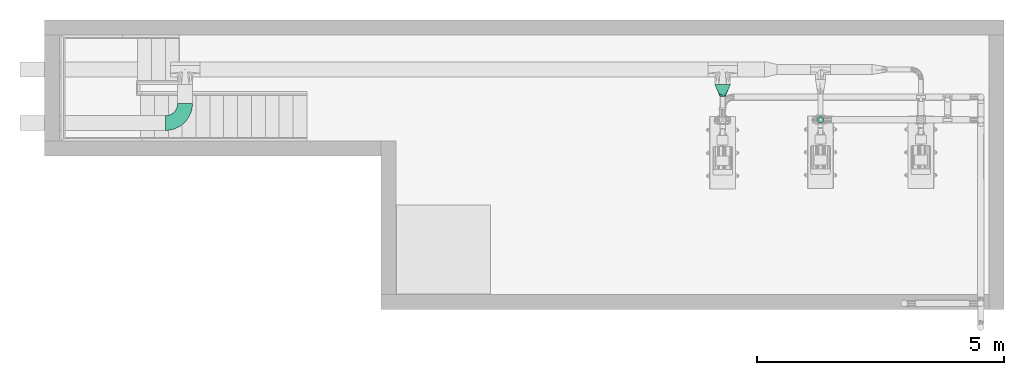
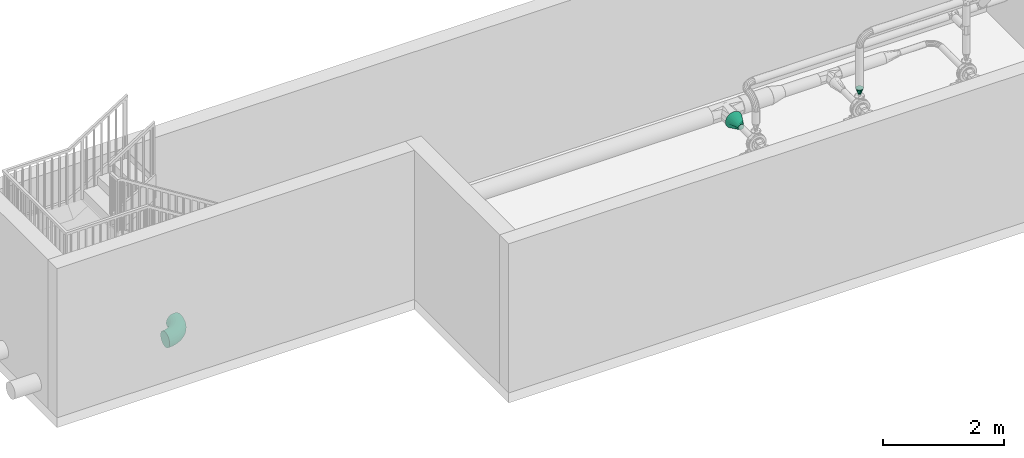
# One storey, part 8 of 12: 3 flow fittings.
"""IFC2X3 building model written with IfcOpenShell, lengths in millimetres."""

from ifc_helpers import new_model, entity, si_unit, converted_unit, direction, frame, origin, place, context, subcontext, project, spatial, faceted_brep, source, transform, mapped, material, type_object, type_shapes, element, save


model = new_model("IFC2X3")

# Units and contexts
model_context = context("Model", 3, precision=0.01, world=origin(), true_north=direction((6.123031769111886e-17, 1.0)))
body_context = subcontext(model_context, "Body", "Model", "MODEL_VIEW")
ifc_project = project(units=[si_unit("LENGTHUNIT", "METRE", prefix="MILLI"), converted_unit("PLANEANGLEUNIT", "DEGREE", entity("IfcPlaneAngleMeasure", 0.017453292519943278), si_unit("PLANEANGLEUNIT", "RADIAN"), dimensions=[0, 0, 0, 0, 0, 0, 0]), si_unit("AREAUNIT", "SQUARE_METRE")], contexts=[model_context])

# Site, building, storey
site_placement = place(None, frame((7776.576483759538, 118.3519876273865, 0.0)))
site = spatial("IfcSite", under=ifc_project, at=site_placement, Name="Default", CompositionType="ELEMENT")
building_placement = place(site_placement, origin())
building = spatial("IfcBuilding", under=site, at=building_placement, Name="Bygning (endres i Project Information)", CompositionType="ELEMENT")
storey_placement = place(building_placement, frame((0.0, 0.0, 11000.0)))
storey = spatial("IfcBuildingStorey", under=building, at=storey_placement, Name="Plan U2 - Arbeid", CompositionType="ELEMENT", Elevation=10999.999999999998)

# Flow fittings
ifc_material = material(Name="SS 2343 Rustfritt stål, prosessrør, generisk")
pipe_fitting_type_1 = type_object("IfcPipeFittingType", Name="VA_prosess_rustfritt_bend_D+100:VA_prosess_rustfritt_bend_D+100", PredefinedType="NOTDEFINED", material=ifc_material)
shared_shape_1 = source(origin(), body_context, "Body", "Brep", [
    faceted_brep([(-304.4930882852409, -141.64427708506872, 0.0), (-305.54818317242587, -135.66053189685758, 42.25988352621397), (-399.9995126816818, -143.92394604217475, 42.25988352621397), (-399.9995126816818, -150.0, 0.0), (-308.627990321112, -118.19406378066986, 81.09612261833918), (-399.99951268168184, -126.18802992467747, 81.09612261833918), (-313.4830020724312, -90.65990210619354, 113.36243615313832), (-399.9995126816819, -98.22911009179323, 113.36243615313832), (-319.71989424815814, -55.288700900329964, 136.4447993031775), (-399.99951268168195, -62.31225195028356, 136.4447993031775), (-326.83339093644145, -14.946024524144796, 148.47321628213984), (-399.999512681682, -21.347225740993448, 148.47321628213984), (-334.2471989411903, 27.099803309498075, 148.47321628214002), (-399.9995126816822, 21.347225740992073, 148.47321628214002), (-341.36069562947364, 67.44247968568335, 136.44479930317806), (-399.99951268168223, 62.3122519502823, 136.44479930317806), (-347.5975878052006, 102.81368089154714, 113.36243615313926), (-399.9995126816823, 98.22911009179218, 113.36243615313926), (-352.4525995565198, 130.34784256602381, 81.0961226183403), (-399.99951268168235, 126.18802992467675, 81.0961226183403), (-355.5324067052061, 147.81431068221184, 42.25988352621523), (-399.99951268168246, 143.9239460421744, 42.25988352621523), (-356.5875015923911, 153.79805587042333, 0.0), (-399.99951268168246, 150.0, 0.0), (-355.53240670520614, 147.81431068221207, -42.25988352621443), (-399.99951268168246, 143.92394604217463, -42.25988352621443), (-352.4525995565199, 130.34784256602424, -81.09612261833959), (-399.99951268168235, 126.18802992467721, -81.09612261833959), (-347.5975878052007, 102.8136808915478, -113.36243615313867), (-399.9995126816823, 98.22911009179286, -113.36243615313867), (-341.36069562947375, 67.44247968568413, -136.44479930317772), (-399.99951268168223, 62.3122519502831, -136.44479930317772), (-334.2471989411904, 27.099803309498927, -148.4732162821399), (-399.9995126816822, 21.347225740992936, -148.4732162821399), (-326.8333909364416, -14.946024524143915, -148.47321628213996), (-399.999512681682, -21.347225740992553, -148.47321628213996), (-319.7198942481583, -55.28870090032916, -136.44479930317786), (-399.99951268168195, -62.31225195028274, -136.44479930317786), (-313.4830020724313, -90.65990210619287, -113.36243615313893), (-399.9995126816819, -98.22911009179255, -113.36243615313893), (-308.6279903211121, -118.19406378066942, -81.09612261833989), (-399.99951268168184, -126.18802992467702, -81.09612261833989), (-305.5481831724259, -135.66053189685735, -42.25988352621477), (-399.9995126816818, -143.92394604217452, -42.25988352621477), (-211.88857377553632, -116.83099236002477, 0.0), (-213.96670507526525, -111.12136872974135, 42.25988352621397), (-220.03274113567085, -94.4550575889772, 81.09612261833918), (-229.59524779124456, -68.18226434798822, 113.36243615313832), (-241.87952762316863, -34.43145446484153, 136.4447993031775), (-255.89038133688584, 4.0630821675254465, 148.47321628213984), (-270.49273289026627, 44.1827471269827, 148.47321628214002), (-284.50358660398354, 82.67728375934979, 136.44479930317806), (-296.7878664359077, 116.42809364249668, 113.36243615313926), (-306.3503730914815, 142.70088688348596, 81.0961226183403), (-312.41640915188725, 159.36719802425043, 42.25988352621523), (-314.49454045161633, 165.0768216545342, 0.0), (-312.4164091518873, 159.36719802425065, -42.25988352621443), (-306.35037309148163, 142.7008868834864, -81.09612261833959), (-296.7878664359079, 116.42809364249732, -113.36243615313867), (-284.5035866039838, 82.67728375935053, -136.44479930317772), (-270.49273289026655, 44.182747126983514, -148.4732162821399), (-255.89038133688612, 4.0630821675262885, -148.47321628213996), (-241.8795276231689, -34.43145446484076, -136.44479930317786), (-229.5952477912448, -68.18226434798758, -113.36243615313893), (-220.03274113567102, -94.45505758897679, -81.09612261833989), (-213.96670507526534, -111.12136872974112, -42.25988352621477), (-124.99970611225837, -76.31408375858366, 0.0), (-128.0377309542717, -71.05206544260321, 42.25988352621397), (-136.90568277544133, -55.69230792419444, 81.09612261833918), (-150.88513285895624, -31.479167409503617, 113.36243615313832), (-168.843549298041, -0.3742485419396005, 136.4447993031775), (-189.32604799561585, 35.10251313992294, 148.47321628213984), (-210.6732587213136, 72.07700139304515, 148.47321628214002), (-231.1557574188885, 107.55376307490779, 136.44479930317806), (-249.11417385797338, 138.65868194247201, 113.36243615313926), (-263.09362394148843, 162.8718224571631, 81.0961226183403), (-271.9615757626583, 178.23157997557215, 42.25988352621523), (-274.9996006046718, 183.4935982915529, 0.0), (-271.9615757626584, 178.23157997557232, -42.25988352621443), (-263.09362394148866, 162.8718224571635, -81.09612261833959), (-249.11417385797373, 138.65868194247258, -113.36243615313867), (-231.1557574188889, 107.55376307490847, -136.44479930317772), (-210.67325872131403, 72.0770013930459, -148.4732162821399), (-189.3260479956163, 35.10251313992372, -148.47321628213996), (-168.8435492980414, -0.37424854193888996, -136.44479930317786), (-150.88513285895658, -31.479167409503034, -113.36243615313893), (-136.90568277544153, -55.692307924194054, -81.09612261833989), (-128.0377309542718, -71.05206544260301, -42.25988352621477), (-46.46655548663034, -21.324635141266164, 0.0), (-50.37216516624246, -16.670105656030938, 42.25988352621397), (-61.77258493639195, -3.0835994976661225, 81.09612261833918), (-79.74422058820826, 18.3341854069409, 113.36243615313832), (-102.83111708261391, 45.848107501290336, 136.4447993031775), (-129.1629113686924, 77.22915244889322, 148.47321628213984), (-156.60635807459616, 109.93501461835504, 148.47321628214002), (-182.9381523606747, 141.31605956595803, 136.44479930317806), (-206.02504885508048, 168.82998166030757, 113.36243615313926), (-223.99668450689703, 190.24776656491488, 81.0961226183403), (-235.3971042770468, 203.83427272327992, 42.25988352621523), (-239.3027139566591, 208.4888022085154, 0.0), (-235.3971042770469, 203.8342727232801, -42.25988352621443), (-223.9966845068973, 190.24776656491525, -81.09612261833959), (-206.0250488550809, 168.8299816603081, -113.36243615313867), (-182.93815236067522, 141.31605956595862, -136.44479930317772), (-156.60635807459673, 109.93501461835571, -148.4732162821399), (-129.16291136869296, 77.2291524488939, -148.47321628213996), (-102.83111708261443, 45.84810750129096, -136.44479930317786), (-79.7442205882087, 18.334185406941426, -113.36243615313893), (-61.772584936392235, -3.0835994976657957, -81.09612261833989), (-50.3721651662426, -16.670105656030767, -42.25988352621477), (21.324691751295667, 46.46652950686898, 0.0), (16.670167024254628, 50.37214485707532, 42.25988352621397), (3.083674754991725, 61.772581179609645, 81.09612261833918), (-18.33408825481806, 79.74424292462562, 113.36243615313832), (-45.847982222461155, 102.83117293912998, 136.4447993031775), (-77.22899509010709, 129.1630054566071, 148.47321628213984), (-109.93482382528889, 156.60649200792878, 148.47321628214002), (-141.3158366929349, 182.93832452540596, 136.44479930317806), (-168.8297306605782, 206.02525453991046, 113.36243615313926), (-190.2474936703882, 223.99691628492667, 81.0961226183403), (-203.83398593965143, 235.39735260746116, 42.25988352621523), (-208.48851066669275, 239.30296795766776, 0.0), (-203.8339859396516, 235.3973526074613, -42.25988352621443), (-190.24749367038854, 223.99691628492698, -81.09612261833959), (-168.82973066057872, 206.0252545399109, -113.36243615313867), (-141.31583669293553, 182.93832452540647, -136.44479930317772), (-109.93482382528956, 156.60649200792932, -148.4732162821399), (-77.22899509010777, 129.1630054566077, -148.47321628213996), (-45.84798222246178, 102.83117293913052, -136.44479930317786), (-18.33408825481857, 79.74424292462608, -113.36243615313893), (3.083674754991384, 61.77258117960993, -81.09612261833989), (16.670167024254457, 50.372144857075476, -42.25988352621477), (76.31423604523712, 124.99961313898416, 0.0), (71.0522214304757, 128.0376443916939, 42.25988352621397), (55.69247471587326, 136.90561492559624, 81.09612261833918), (31.479351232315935, 150.88509450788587, 113.36243615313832), (0.3744542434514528, 168.84354884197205, 136.4447993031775), (-35.10228248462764, 189.3260907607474, 148.47321628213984), (-72.07674473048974, 210.67334653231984, 148.47321628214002), (-107.55348145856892, 231.1558884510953, 136.44479930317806), (-138.6583784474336, 249.11434278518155, 113.36243615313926), (-162.8715019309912, 263.0938223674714, 81.0961226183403), (-178.23124864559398, 271.9617929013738, 42.25988352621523), (-183.4932632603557, 274.99982415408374, 0.0), (-178.23124864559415, 271.96179290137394, -42.25988352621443), (-162.8715019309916, 263.0938223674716, -81.09612261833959), (-138.6583784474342, 249.1143427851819, -113.36243615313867), (-107.55348145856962, 231.1558884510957, -136.44479930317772), (-72.07674473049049, 210.67334653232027, -148.4732162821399), (-35.10228248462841, 189.32609076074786, -148.47321628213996), (0.37445424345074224, 168.84354884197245, -136.44479930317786), (31.479351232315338, 150.8850945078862, -113.36243615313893), (55.692474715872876, 136.90561492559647, -81.09612261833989), (71.0522214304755, 128.03764439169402, -42.25988352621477), (116.83125050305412, 211.88843144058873, 0.0), (111.12162940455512, 213.9665696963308, 42.25988352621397), (94.45532565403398, 220.03262606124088, 81.09612261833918), (68.18254406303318, 229.59516472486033, 113.36243615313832), (34.431749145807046, 241.87948567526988, 136.4447993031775), (-4.062770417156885, 255.8903862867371, 148.47321628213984), (-44.182417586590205, 270.4927867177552, 148.47321628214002), (-82.67693714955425, 284.50368732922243, 136.44479930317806), (-116.42773206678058, 296.7880082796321, 113.36243615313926), (-142.70051365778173, 306.35054694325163, 81.0961226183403), (-159.36681740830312, 312.4166033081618, 42.25988352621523), (-165.07643850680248, 314.494741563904, 0.0), (-159.36681740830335, 312.4166033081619, -42.25988352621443), (-142.70051365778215, 306.3505469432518, -81.09612261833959), (-116.42773206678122, 296.7880082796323, -113.36243615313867), (-82.67693714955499, 284.5036873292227, -136.44479930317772), (-44.182417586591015, 270.4927867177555, -148.4732162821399), (-4.062770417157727, 255.89038628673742, -148.47321628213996), (34.43174914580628, 241.87948567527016, -136.44479930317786), (68.18254406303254, 229.59516472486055, -113.36243615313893), (94.45532565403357, 220.03262606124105, -81.09612261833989), (111.1216294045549, 213.96656969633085, -42.25988352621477), (141.6446480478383, 304.49291572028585, 0.0), (135.66090414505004, 305.5480178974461, 42.25988352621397), (118.19443978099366, 308.62784632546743, 81.09612261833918), (90.66028402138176, 313.4828916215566, 113.36243615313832), (55.28909041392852, 319.7198268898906, 136.4447993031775), (14.946422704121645, 326.83337272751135, 148.47321628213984), (-27.099396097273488, 334.24723195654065, 148.47321628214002), (-67.44206380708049, 341.3607777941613, 136.44479930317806), (-102.81325741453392, 347.5977130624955, 113.36243615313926), (-130.34741317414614, 352.4527583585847, 81.0961226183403), (-147.8138775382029, 355.53258678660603, 42.25988352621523), (-153.7976214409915, 356.5876889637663, 0.0), (-147.81387753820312, 355.5325867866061, -42.25988352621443), (-130.3474131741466, 352.45275835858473, -81.09612261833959), (-102.8132574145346, 347.5977130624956, -113.36243615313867), (-67.44206380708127, 341.3607777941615, -136.44479930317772), (-27.099396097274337, 334.2472319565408, -148.4732162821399), (14.946422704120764, 326.83337272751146, -148.47321628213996), (55.28909041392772, 319.7198268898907, -136.44479930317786), (90.66028402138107, 313.4828916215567, -113.36243615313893), (118.19443978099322, 308.6278463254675, -81.09612261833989), (135.6609041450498, 305.5480178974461, -42.25988352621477), (150.00048731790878, 399.9993299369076, 0.0), (143.92443336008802, 399.999337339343, 42.25988352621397), (126.1885172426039, 399.9993589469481, 81.09612261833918), (98.2295974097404, 399.9993930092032, 113.36243615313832), (62.31273926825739, 399.9994367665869, 136.4447993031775), (21.347713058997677, 399.9994866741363, 148.47321628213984), (-21.34673842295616, 399.99953868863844, 148.47321628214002), (-62.31176463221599, 399.99958859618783, 136.44479930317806), (-98.22862277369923, 399.99963235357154, 113.36243615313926), (-126.18754260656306, 399.9996664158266, 81.0961226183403), (-143.92345872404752, 399.99968802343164, 42.25988352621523), (-149.99951268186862, 399.99969542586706, 0.0), (-143.92345872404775, 399.99968802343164, -42.25988352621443), (-126.18754260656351, 399.9996664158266, -81.09612261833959), (-98.22862277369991, 399.99963235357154, -113.36243615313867), (-62.311764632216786, 399.99958859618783, -136.44479930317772), (-21.346738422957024, 399.99953868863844, -148.4732162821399), (21.34771305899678, 399.9994866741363, -148.47321628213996), (62.31273926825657, 399.9994367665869, -136.44479930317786), (98.22959740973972, 399.9993930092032, -113.36243615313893), (126.18851724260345, 399.9993589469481, -81.09612261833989), (143.9244333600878, 399.999337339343, -42.25988352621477)], [[[0, 1, 2, 3]], [[1, 4, 5, 2]], [[4, 6, 7, 5]], [[6, 8, 9, 7]], [[8, 10, 11, 9]], [[10, 12, 13, 11]], [[12, 14, 15, 13]], [[14, 16, 17, 15]], [[16, 18, 19, 17]], [[18, 20, 21, 19]], [[20, 22, 23, 21]], [[22, 24, 25, 23]], [[24, 26, 27, 25]], [[26, 28, 29, 27]], [[28, 30, 31, 29]], [[30, 32, 33, 31]], [[32, 34, 35, 33]], [[34, 36, 37, 35]], [[36, 38, 39, 37]], [[38, 40, 41, 39]], [[40, 42, 43, 41]], [[42, 0, 3, 43]], [[44, 45, 1, 0]], [[45, 46, 4, 1]], [[46, 47, 6, 4]], [[47, 48, 8, 6]], [[48, 49, 10, 8]], [[49, 50, 12, 10]], [[50, 51, 14, 12]], [[51, 52, 16, 14]], [[52, 53, 18, 16]], [[53, 54, 20, 18]], [[54, 55, 22, 20]], [[55, 56, 24, 22]], [[56, 57, 26, 24]], [[57, 58, 28, 26]], [[58, 59, 30, 28]], [[59, 60, 32, 30]], [[60, 61, 34, 32]], [[61, 62, 36, 34]], [[62, 63, 38, 36]], [[63, 64, 40, 38]], [[64, 65, 42, 40]], [[65, 44, 0, 42]], [[66, 67, 45, 44]], [[67, 68, 46, 45]], [[68, 69, 47, 46]], [[69, 70, 48, 47]], [[70, 71, 49, 48]], [[71, 72, 50, 49]], [[72, 73, 51, 50]], [[73, 74, 52, 51]], [[74, 75, 53, 52]], [[75, 76, 54, 53]], [[76, 77, 55, 54]], [[77, 78, 56, 55]], [[78, 79, 57, 56]], [[79, 80, 58, 57]], [[80, 81, 59, 58]], [[81, 82, 60, 59]], [[82, 83, 61, 60]], [[83, 84, 62, 61]], [[84, 85, 63, 62]], [[85, 86, 64, 63]], [[86, 87, 65, 64]], [[87, 66, 44, 65]], [[88, 89, 67, 66]], [[89, 90, 68, 67]], [[90, 91, 69, 68]], [[91, 92, 70, 69]], [[92, 93, 71, 70]], [[93, 94, 72, 71]], [[94, 95, 73, 72]], [[95, 96, 74, 73]], [[96, 97, 75, 74]], [[97, 98, 76, 75]], [[98, 99, 77, 76]], [[99, 100, 78, 77]], [[100, 101, 79, 78]], [[101, 102, 80, 79]], [[102, 103, 81, 80]], [[103, 104, 82, 81]], [[104, 105, 83, 82]], [[105, 106, 84, 83]], [[106, 107, 85, 84]], [[107, 108, 86, 85]], [[108, 109, 87, 86]], [[109, 88, 66, 87]], [[110, 111, 89, 88]], [[111, 112, 90, 89]], [[112, 113, 91, 90]], [[113, 114, 92, 91]], [[114, 115, 93, 92]], [[115, 116, 94, 93]], [[116, 117, 95, 94]], [[117, 118, 96, 95]], [[118, 119, 97, 96]], [[119, 120, 98, 97]], [[120, 121, 99, 98]], [[121, 122, 100, 99]], [[122, 123, 101, 100]], [[123, 124, 102, 101]], [[124, 125, 103, 102]], [[125, 126, 104, 103]], [[126, 127, 105, 104]], [[127, 128, 106, 105]], [[128, 129, 107, 106]], [[129, 130, 108, 107]], [[130, 131, 109, 108]], [[131, 110, 88, 109]], [[132, 133, 111, 110]], [[133, 134, 112, 111]], [[134, 135, 113, 112]], [[135, 136, 114, 113]], [[136, 137, 115, 114]], [[137, 138, 116, 115]], [[138, 139, 117, 116]], [[139, 140, 118, 117]], [[140, 141, 119, 118]], [[141, 142, 120, 119]], [[142, 143, 121, 120]], [[143, 144, 122, 121]], [[144, 145, 123, 122]], [[145, 146, 124, 123]], [[146, 147, 125, 124]], [[147, 148, 126, 125]], [[148, 149, 127, 126]], [[149, 150, 128, 127]], [[150, 151, 129, 128]], [[151, 152, 130, 129]], [[152, 153, 131, 130]], [[153, 132, 110, 131]], [[154, 155, 133, 132]], [[155, 156, 134, 133]], [[156, 157, 135, 134]], [[157, 158, 136, 135]], [[158, 159, 137, 136]], [[159, 160, 138, 137]], [[160, 161, 139, 138]], [[161, 162, 140, 139]], [[162, 163, 141, 140]], [[163, 164, 142, 141]], [[164, 165, 143, 142]], [[165, 166, 144, 143]], [[166, 167, 145, 144]], [[167, 168, 146, 145]], [[168, 169, 147, 146]], [[169, 170, 148, 147]], [[170, 171, 149, 148]], [[171, 172, 150, 149]], [[172, 173, 151, 150]], [[173, 174, 152, 151]], [[174, 175, 153, 152]], [[175, 154, 132, 153]], [[176, 177, 155, 154]], [[177, 178, 156, 155]], [[178, 179, 157, 156]], [[179, 180, 158, 157]], [[180, 181, 159, 158]], [[181, 182, 160, 159]], [[182, 183, 161, 160]], [[183, 184, 162, 161]], [[184, 185, 163, 162]], [[185, 186, 164, 163]], [[186, 187, 165, 164]], [[187, 188, 166, 165]], [[188, 189, 167, 166]], [[189, 190, 168, 167]], [[190, 191, 169, 168]], [[191, 192, 170, 169]], [[192, 193, 171, 170]], [[193, 194, 172, 171]], [[194, 195, 173, 172]], [[195, 196, 174, 173]], [[196, 197, 175, 174]], [[197, 176, 154, 175]], [[198, 199, 177, 176]], [[199, 200, 178, 177]], [[200, 201, 179, 178]], [[201, 202, 180, 179]], [[202, 203, 181, 180]], [[203, 204, 182, 181]], [[204, 205, 183, 182]], [[205, 206, 184, 183]], [[206, 207, 185, 184]], [[207, 208, 186, 185]], [[208, 209, 187, 186]], [[209, 210, 188, 187]], [[210, 211, 189, 188]], [[211, 212, 190, 189]], [[212, 213, 191, 190]], [[213, 214, 192, 191]], [[214, 215, 193, 192]], [[215, 216, 194, 193]], [[216, 217, 195, 194]], [[217, 218, 196, 195]], [[218, 219, 197, 196]], [[219, 198, 176, 197]], [[3, 2, 5, 7, 9, 11, 13, 15, 17, 19, 21, 23, 25, 27, 29, 31, 33, 35, 37, 39, 41, 43]], [[219, 218, 217, 216, 215, 214, 213, 212, 211, 210, 209, 208, 207, 206, 205, 204, 203, 202, 201, 200, 199, 198]]]),
])
type_shapes(pipe_fitting_type_1, [shared_shape_1])
flow_fitting_1_placement = place(storey_placement, frame((15714.00123031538, 32512.53179495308, 320.1999999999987)))
element("IfcFlowFitting", 1, at=flow_fitting_1_placement, inside=storey, type_object=pipe_fitting_type_1, material=ifc_material, Name="VA_prosess_rustfritt_bend_D+100:VA_prosess_rustfritt_bend_D+100", ObjectType="VA_prosess_rustfritt_bend_D+100:VA_prosess_rustfritt_bend_D+100", context=body_context, shape_type="MappedRepresentation", body=[
    mapped(shared_shape_1, transform((0.0, 0.0, 0.0), scale=1.0)),
])
pipe_fitting_type_2 = type_object("IfcPipeFittingType", Name="Overganger, konsentriske, rustfritt EN 1,4307304L:Standard", PredefinedType="NOTDEFINED", material=ifc_material)
shared_shape_2 = source(origin(), body_context, "Body", "Brep", [
    faceted_brep([(120.95000000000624, -21.84345884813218, 15.870201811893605), (120.95000000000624, -24.421729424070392, 7.935100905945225), (120.95000000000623, -27.0, 0.0), (120.95000000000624, -24.421729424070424, -7.935100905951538), (120.95000000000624, -21.843458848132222, -15.870201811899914), (120.95000000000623, -15.09345884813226, -20.774363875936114), (120.95000000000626, -8.343458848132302, -25.678525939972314), (120.95000000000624, 0.0, -25.678525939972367), (120.9500000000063, 8.343458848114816, -25.678525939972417), (120.95000000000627, 15.093458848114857, -20.774363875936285), (120.95000000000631, 21.843458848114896, -15.870201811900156), (120.95000000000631, 24.42172942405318, -7.935100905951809), (120.95000000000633, 27.0, 0.0), (120.95000000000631, 24.421729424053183, 7.935100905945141), (120.95000000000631, 21.843458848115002, 15.870201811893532), (120.95000000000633, 15.093458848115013, 20.774363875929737), (120.9500000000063, 8.343458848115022, 25.678525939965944), (120.95000000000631, 0.0, 25.67852593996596), (120.95000000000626, -8.34345884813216, 25.678525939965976), (120.95000000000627, -15.09345884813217, 20.77436387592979), (0.0, -59.59022984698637, -24.68308138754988), (0.0, -62.04511492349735, -12.341540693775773), (0.0, -64.50000000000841, 0.0), (0.0, -62.045114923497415, 12.341540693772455), (0.0, -59.59022984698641, 24.683081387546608), (0.0, -52.599308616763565, 35.14573438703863), (0.0, -45.60838738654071, 45.60838738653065), (0.0, -35.14573438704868, 52.5993086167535), (0.0, -24.68308138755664, 59.59022984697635), (0.0, -12.34154069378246, 62.04511492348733), (0.0, 0.0, 64.49999999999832), (0.0, 12.34154069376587, 62.04511492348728), (0.0, 24.68308138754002, 59.59022984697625), (0.0, 35.145734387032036, 52.59930861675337), (0.0, 45.60838738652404, 45.608387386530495), (0.0, 52.59930861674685, 35.14573438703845), (0.0, 59.590229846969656, 24.68308138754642), (0.0, 62.04511492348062, 12.341540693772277), (0.0, 64.49999999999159, 0.0), (0.0, 62.04511492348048, -12.341540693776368), (0.0, 59.59022984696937, -24.68308138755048), (0.0, 52.59930861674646, -35.145734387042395), (0.0, 45.60838738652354, -45.608387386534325), (0.0, 35.14573438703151, -52.59930861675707), (0.0, 24.6830813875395, -59.590229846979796), (0.0, 12.341540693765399, -62.04511492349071), (0.0, 0.0, -64.50000000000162), (0.0, -12.341540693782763, -62.04511492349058), (0.0, -24.68308138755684, -59.59022984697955), (0.0, -35.145734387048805, -52.5993086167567), (0.0, -45.608387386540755, -45.60838738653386), (0.0, -52.599308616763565, -35.14573438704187)], [[[0, 1, 2, 3, 4, 5, 6, 7, 8, 9, 10, 11, 12, 13, 14, 15, 16, 17, 18, 19]], [[20, 21, 22, 23, 24, 25, 26, 27, 28, 29, 30, 31, 32, 33, 34, 35, 36, 37, 38, 39, 40, 41, 42, 43, 44, 45, 46, 47, 48, 49, 50, 51]], [[6, 47, 7]], [[7, 45, 8]], [[6, 48, 47]], [[5, 50, 49, 48]], [[39, 38, 12]], [[2, 21, 3]], [[10, 42, 41, 40]], [[51, 50, 4, 20]], [[9, 44, 43, 42]], [[20, 4, 3]], [[45, 7, 46]], [[5, 4, 50]], [[21, 20, 3]], [[2, 22, 21]], [[11, 40, 39]], [[10, 40, 11]], [[47, 46, 7]], [[48, 6, 5]], [[42, 10, 9]], [[12, 11, 39]], [[45, 44, 8]], [[44, 9, 8]], [[16, 31, 17]], [[17, 29, 18]], [[16, 32, 31]], [[15, 34, 33, 32]], [[23, 22, 2]], [[12, 37, 13]], [[0, 26, 25, 24]], [[35, 34, 14, 36]], [[19, 28, 27, 26]], [[36, 14, 13]], [[29, 17, 30]], [[15, 14, 34]], [[37, 36, 13]], [[12, 38, 37]], [[1, 24, 23]], [[0, 24, 1]], [[31, 30, 17]], [[32, 16, 15]], [[26, 0, 19]], [[2, 1, 23]], [[29, 28, 18]], [[28, 19, 18]]]),
])
type_shapes(pipe_fitting_type_2, [shared_shape_2])
flow_fitting_2_placement = place(storey_placement, frame((28564.00137490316, 32579.634050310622, 702.3571167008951), z_axis=(0.0, 1.0, 0.0), x_axis=(0.0, 0.0, -1.0)))
element("IfcFlowFitting", 2, at=flow_fitting_2_placement, inside=storey, type_object=pipe_fitting_type_2, material=ifc_material, Name="Overganger, konsentriske, rustfritt EN 1,4307304L:Standard", ObjectType="Overganger, konsentriske, rustfritt EN 1,4307304L:Standard", context=body_context, shape_type="MappedRepresentation", body=[
    mapped(shared_shape_2, transform((0.0, 0.0, 0.0), scale=1.0)),
])
pipe_fitting_type_3 = type_object("IfcPipeFittingType", Name="Overganger, konsentriske, rustfritt EN 1,4307304L:Standard", PredefinedType="NOTDEFINED", material=ifc_material)
shared_shape_3 = source(origin(), body_context, "Body", "Brep", [
    faceted_brep([(252.2000000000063, 0.0, 158.2999999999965), (252.2000000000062, -40.97105483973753, 152.90605830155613), (252.20000000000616, -79.15000000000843, 137.09182141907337), (252.20000000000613, -111.93500346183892, 111.93500346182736), (252.20000000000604, -137.09182141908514, 79.14999999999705), (252.20000000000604, -152.90605830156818, 40.97105483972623), (252.200000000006, -158.30000000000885, 0.0), (252.20000000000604, -152.90605830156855, -40.97105483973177), (252.20000000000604, -137.0918214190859, -79.1500000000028), (252.20000000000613, -111.93500346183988, -111.93500346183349), (252.20000000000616, -79.15000000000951, -137.09182141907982), (252.2000000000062, -40.971054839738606, -152.90605830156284), (252.2000000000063, 0.0, -158.30000000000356), (252.20000000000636, 40.97105483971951, -152.9060583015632), (252.2000000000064, 79.14999999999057, -137.09182141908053), (252.20000000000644, 111.93500346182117, -111.9350034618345), (252.20000000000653, 137.09182141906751, -79.15000000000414), (252.20000000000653, 152.9060583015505, -40.97105483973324), (252.20000000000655, 158.29999999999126, 0.0), (252.20000000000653, 152.90605830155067, 40.97105483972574), (252.20000000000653, 137.0918214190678, 79.14999999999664), (252.20000000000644, 111.93500346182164, 111.93500346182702), (252.2000000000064, 79.1499999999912, 137.09182141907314), (252.20000000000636, 40.97105483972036, 152.906058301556), (0.0, 39.63592541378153, 31.608595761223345), (0.0, 46.85038113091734, 22.561954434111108), (0.0, 49.425190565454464, 11.280977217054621), (0.0, 52.0, 0.0), (0.0, 49.425190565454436, -11.280977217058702), (0.0, 46.850381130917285, -22.561954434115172), (0.0, 39.6359254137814, -31.608595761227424), (0.0, 32.421469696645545, -40.65523708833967), (0.0, 21.9962791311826, -45.67574426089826), (0.0, 11.571088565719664, -50.69625143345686), (0.0, 0.0, -50.69625143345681), (0.0, -11.571088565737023, -50.69625143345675), (0.0, -21.9962791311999, -45.67574426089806), (0.0, -32.42146969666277, -40.65523708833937), (0.0, -39.63592541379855, -31.60859576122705), (0.0, -46.85038113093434, -22.561954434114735), (0.0, -49.42519056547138, -11.280977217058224), (0.0, -52.0, 0.0), (0.0, -49.42519056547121, 11.280977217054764), (0.0, -46.85038113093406, 22.561954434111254), (0.0, -39.63592541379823, 31.60859576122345), (0.0, -32.42146969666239, 40.65523708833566), (0.0, -21.996279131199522, 45.67574426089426), (0.0, -11.571088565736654, 50.69625143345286), (0.0, 0.0, 50.69625143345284), (0.0, 11.571088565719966, 50.69625143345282), (0.0, 21.996279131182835, 45.6757442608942), (0.0, 32.42146969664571, 40.655237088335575)], [[[0, 1, 2, 3, 4, 5, 6, 7, 8, 9, 10, 11, 12, 13, 14, 15, 16, 17, 18, 19, 20, 21, 22, 23]], [[24, 25, 26, 27, 28, 29, 30, 31, 32, 33, 34, 35, 36, 37, 38, 39, 40, 41, 42, 43, 44, 45, 46, 47, 48, 49, 50, 51]], [[38, 8, 39]], [[39, 8, 7]], [[8, 38, 9]], [[35, 12, 11]], [[32, 13, 33]], [[6, 40, 7]], [[35, 11, 36]], [[40, 39, 7]], [[40, 6, 41]], [[10, 37, 36]], [[37, 10, 9]], [[34, 33, 12, 35]], [[38, 37, 9]], [[10, 36, 11]], [[32, 31, 14]], [[15, 31, 30]], [[12, 33, 13]], [[29, 16, 30]], [[13, 32, 14]], [[29, 17, 16]], [[17, 29, 28]], [[31, 15, 14]], [[30, 16, 15]], [[27, 18, 28]], [[17, 28, 18]], [[24, 20, 25]], [[25, 20, 19]], [[20, 24, 21]], [[49, 0, 23]], [[46, 1, 47]], [[18, 26, 19]], [[49, 23, 50]], [[26, 25, 19]], [[26, 18, 27]], [[22, 51, 50]], [[51, 22, 21]], [[48, 47, 0, 49]], [[24, 51, 21]], [[22, 50, 23]], [[46, 45, 2]], [[3, 45, 44]], [[0, 47, 1]], [[43, 4, 44]], [[1, 46, 2]], [[43, 5, 4]], [[5, 43, 42]], [[45, 3, 2]], [[44, 4, 3]], [[41, 6, 42]], [[5, 42, 6]]]),
])
type_shapes(pipe_fitting_type_3, [shared_shape_3])
flow_fitting_3_placement = place(storey_placement, frame((26583.986976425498, 33045.6016622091, 320.2091490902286), z_axis=(0.0, -3.0465373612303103e-05, 1.0), x_axis=(0.0, 1.0, 3.0465373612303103e-05)))
element("IfcFlowFitting", 3, at=flow_fitting_3_placement, inside=storey, type_object=pipe_fitting_type_3, material=ifc_material, Name="Overganger, konsentriske, rustfritt EN 1,4307304L:Standard", ObjectType="Overganger, konsentriske, rustfritt EN 1,4307304L:Standard", context=body_context, shape_type="MappedRepresentation", body=[
    mapped(shared_shape_3, transform((0.0, 0.0, 0.0), scale=1.0)),
])

save(model, "model.ifc")
